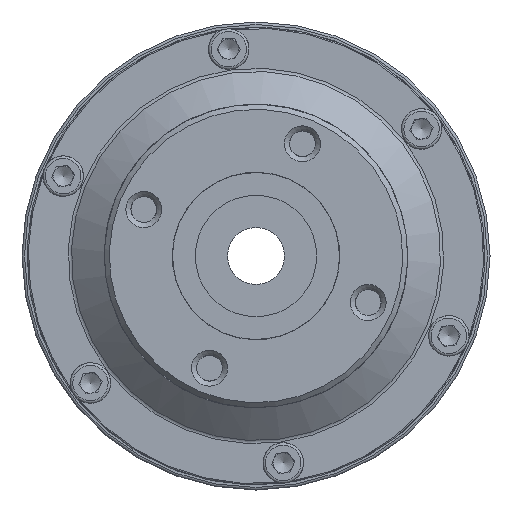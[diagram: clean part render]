
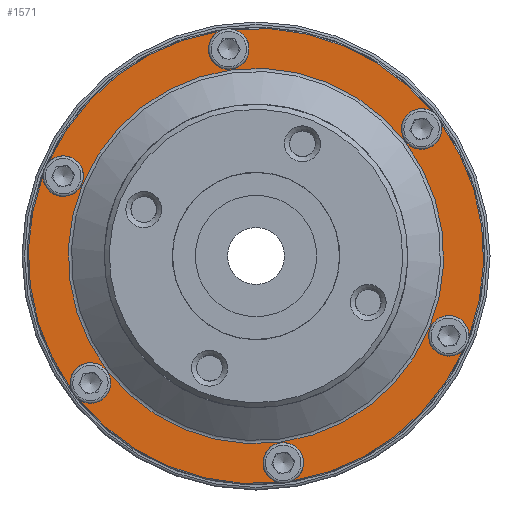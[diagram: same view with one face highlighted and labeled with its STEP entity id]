
A CAD part, left-side view. The second image highlights one B-rep face of the part: STEP entity #1571.
In plain terms, the highlighted planar face has unit normal (-1, 0, 0).
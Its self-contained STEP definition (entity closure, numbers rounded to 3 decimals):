
#1571 = ADVANCED_FACE( '', ( #3767, #3768 ), #3769, .T. );
#3767 = FACE_OUTER_BOUND( '', #6756, .T. );
#3768 = FACE_BOUND( '', #6757, .T. );
#3769 = PLANE( '', #6758 );
#6756 = EDGE_LOOP( '', ( #11596, #11597, #11598, #11599, #11600, #11601, #11602, #11603, #11604, #11605, #11606, #11607 ) );
#6757 = EDGE_LOOP( '', ( #11608 ) );
#6758 = AXIS2_PLACEMENT_3D( '', #11609, #11610, #11611 );
#11596 = ORIENTED_EDGE( '', *, *, #16940, .F. );
#11597 = ORIENTED_EDGE( '', *, *, #16408, .T. );
#11598 = ORIENTED_EDGE( '', *, *, #16941, .F. );
#11599 = ORIENTED_EDGE( '', *, *, #16406, .T. );
#11600 = ORIENTED_EDGE( '', *, *, #16942, .F. );
#11601 = ORIENTED_EDGE( '', *, *, #16404, .T. );
#11602 = ORIENTED_EDGE( '', *, *, #16943, .F. );
#11603 = ORIENTED_EDGE( '', *, *, #16402, .T. );
#11604 = ORIENTED_EDGE( '', *, *, #16944, .F. );
#11605 = ORIENTED_EDGE( '', *, *, #16401, .T. );
#11606 = ORIENTED_EDGE( '', *, *, #16729, .F. );
#11607 = ORIENTED_EDGE( '', *, *, #16399, .T. );
#11608 = ORIENTED_EDGE( '', *, *, #16031, .T. );
#11609 = CARTESIAN_POINT( '', ( 4.15, -11.747, -89.23 ) );
#11610 = DIRECTION( '', ( -1., 0., 0. ) );
#11611 = DIRECTION( '', ( 0., 0., 1. ) );
#16031 = EDGE_CURVE( '', #19203, #19203, #19204, .T. );
#16399 = EDGE_CURVE( '', #19791, #19792, #19793, .T. );
#16401 = EDGE_CURVE( '', #19199, #19794, #19796, .T. );
#16402 = EDGE_CURVE( '', #19797, #19198, #19798, .T. );
#16404 = EDGE_CURVE( '', #19801, #19799, #19802, .T. );
#16406 = EDGE_CURVE( '', #19805, #19803, #19806, .T. );
#16408 = EDGE_CURVE( '', #19809, #19807, #19810, .T. );
#16729 = EDGE_CURVE( '', #19791, #19794, #20284, .T. );
#16940 = EDGE_CURVE( '', #19809, #19792, #20577, .T. );
#16941 = EDGE_CURVE( '', #19805, #19807, #20578, .T. );
#16942 = EDGE_CURVE( '', #19801, #19803, #20579, .T. );
#16943 = EDGE_CURVE( '', #19797, #19799, #20580, .T. );
#16944 = EDGE_CURVE( '', #19199, #19198, #20581, .T. );
#19198 = VERTEX_POINT( '', #25379 );
#19199 = VERTEX_POINT( '', #25380 );
#19203 = VERTEX_POINT( '', #25384 );
#19204 = CIRCLE( '', #25385, 74.212 );
#19791 = VERTEX_POINT( '', #26983 );
#19792 = VERTEX_POINT( '', #26984 );
#19793 = CIRCLE( '', #26985, 90. );
#19794 = VERTEX_POINT( '', #26986 );
#19796 = CIRCLE( '', #26988, 90. );
#19797 = VERTEX_POINT( '', #26989 );
#19798 = CIRCLE( '', #26990, 90. );
#19799 = VERTEX_POINT( '', #26991 );
#19801 = VERTEX_POINT( '', #26993 );
#19802 = CIRCLE( '', #26994, 90. );
#19803 = VERTEX_POINT( '', #26995 );
#19805 = VERTEX_POINT( '', #26997 );
#19806 = CIRCLE( '', #26998, 90. );
#19807 = VERTEX_POINT( '', #26999 );
#19809 = VERTEX_POINT( '', #27001 );
#19810 = CIRCLE( '', #27002, 90. );
#20284 = CIRCLE( '', #28255, 8. );
#20577 = CIRCLE( '', #29065, 8. );
#20578 = CIRCLE( '', #29066, 8. );
#20579 = CIRCLE( '', #29067, 8. );
#20580 = CIRCLE( '', #29068, 8. );
#20581 = CIRCLE( '', #29069, 8. );
#25379 = CARTESIAN_POINT( '', ( 4.15, 73.134, -52.453 ) );
#25380 = CARTESIAN_POINT( '', ( 4.15, 69.595, -57.066 ) );
#25384 = CARTESIAN_POINT( '', ( 4.15, -9.687, -73.577 ) );
#25385 = AXIS2_PLACEMENT_3D( '', #32950, #32951, #32952 );
#26983 = CARTESIAN_POINT( '', ( 4.15, -14.624, -88.804 ) );
#26984 = CARTESIAN_POINT( '', ( 4.15, -81.993, -37.11 ) );
#26985 = AXIS2_PLACEMENT_3D( '', #33442, #33443, #33444 );
#26986 = CARTESIAN_POINT( '', ( 4.15, -8.859, -89.563 ) );
#26988 = AXIS2_PLACEMENT_3D( '', #33448, #33449, #33450 );
#26989 = CARTESIAN_POINT( '', ( 4.15, 84.218, 31.738 ) );
#26990 = AXIS2_PLACEMENT_3D( '', #33451, #33452, #33453 );
#26991 = CARTESIAN_POINT( '', ( 4.15, 81.993, 37.11 ) );
#26993 = CARTESIAN_POINT( '', ( 4.15, 14.624, 88.804 ) );
#26994 = AXIS2_PLACEMENT_3D( '', #33457, #33458, #33459 );
#26995 = CARTESIAN_POINT( '', ( 4.15, 8.859, 89.563 ) );
#26997 = CARTESIAN_POINT( '', ( 4.15, -69.595, 57.066 ) );
#26998 = AXIS2_PLACEMENT_3D( '', #33463, #33464, #33465 );
#26999 = CARTESIAN_POINT( '', ( 4.15, -73.134, 52.453 ) );
#27001 = CARTESIAN_POINT( '', ( 4.15, -84.218, -31.738 ) );
#27002 = AXIS2_PLACEMENT_3D( '', #33469, #33470, #33471 );
#28255 = AXIS2_PLACEMENT_3D( '', #33819, #33820, #33821 );
#29065 = AXIS2_PLACEMENT_3D( '', #34064, #34065, #34066 );
#29066 = AXIS2_PLACEMENT_3D( '', #34067, #34068, #34069 );
#29067 = AXIS2_PLACEMENT_3D( '', #34070, #34071, #34072 );
#29068 = AXIS2_PLACEMENT_3D( '', #34073, #34074, #34075 );
#29069 = AXIS2_PLACEMENT_3D( '', #34076, #34077, #34078 );
#32950 = CARTESIAN_POINT( '', ( 4.15, 0., 0. ) );
#32951 = DIRECTION( '', ( 1., 0., 0. ) );
#32952 = DIRECTION( '', ( 0., -0.131, -0.991 ) );
#33442 = CARTESIAN_POINT( '', ( 4.15, 0., 0. ) );
#33443 = DIRECTION( '', ( -1., 0., 0. ) );
#33444 = DIRECTION( '', ( 0., -0.131, -0.991 ) );
#33448 = CARTESIAN_POINT( '', ( 4.15, 0., 0. ) );
#33449 = DIRECTION( '', ( -1., 0., 0. ) );
#33450 = DIRECTION( '', ( 0., -0.131, -0.991 ) );
#33451 = CARTESIAN_POINT( '', ( 4.15, 0., 0. ) );
#33452 = DIRECTION( '', ( -1., 0., 0. ) );
#33453 = DIRECTION( '', ( 0., -0.131, -0.991 ) );
#33457 = CARTESIAN_POINT( '', ( 4.15, 0., 0. ) );
#33458 = DIRECTION( '', ( -1., 0., 0. ) );
#33459 = DIRECTION( '', ( 0., -0.131, -0.991 ) );
#33463 = CARTESIAN_POINT( '', ( 4.15, 0., 0. ) );
#33464 = DIRECTION( '', ( -1., 0., 0. ) );
#33465 = DIRECTION( '', ( 0., -0.131, -0.991 ) );
#33469 = CARTESIAN_POINT( '', ( 4.15, 0., 0. ) );
#33470 = DIRECTION( '', ( -1., 0., 0. ) );
#33471 = DIRECTION( '', ( 0., -0.131, -0.991 ) );
#33819 = CARTESIAN_POINT( '', ( 4.15, -10.768, -81.794 ) );
#33820 = DIRECTION( '', ( -1., 0., 0. ) );
#33821 = DIRECTION( '', ( 0., -0.131, -0.991 ) );
#34064 = CARTESIAN_POINT( '', ( 4.15, -76.22, -31.571 ) );
#34065 = DIRECTION( '', ( -1., 0., 0. ) );
#34066 = DIRECTION( '', ( 0., -0.131, -0.991 ) );
#34067 = CARTESIAN_POINT( '', ( 4.15, -65.452, 50.223 ) );
#34068 = DIRECTION( '', ( -1., 0., 0. ) );
#34069 = DIRECTION( '', ( 0., -0.131, -0.991 ) );
#34070 = CARTESIAN_POINT( '', ( 4.15, 10.768, 81.794 ) );
#34071 = DIRECTION( '', ( -1., 0., 0. ) );
#34072 = DIRECTION( '', ( 0., 0., -1. ) );
#34073 = CARTESIAN_POINT( '', ( 4.15, 76.22, 31.571 ) );
#34074 = DIRECTION( '', ( -1., 0., 0. ) );
#34075 = DIRECTION( '', ( 0., -0.131, -0.991 ) );
#34076 = CARTESIAN_POINT( '', ( 4.15, 65.452, -50.223 ) );
#34077 = DIRECTION( '', ( -1., 0., 0. ) );
#34078 = DIRECTION( '', ( 0., -0.131, -0.991 ) );
